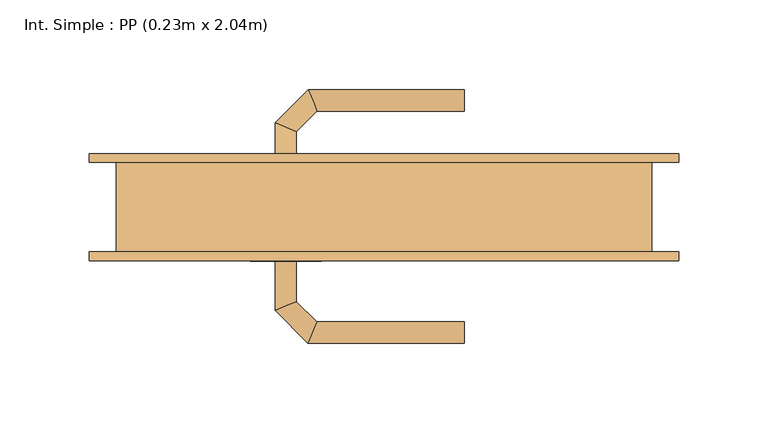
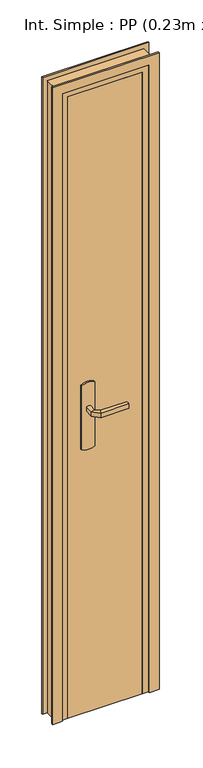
"""IFC4 building model written with IfcOpenShell, lengths in millimetres: door geometry, Int. Simple : PP (0.23m x 2.04m)."""

from ifc_helpers import new_model, si_unit, point, frame, frame_2d, origin, origin_with_axes, place, context, project, spatial, polyline, circle_curve, ellipse_curve, trimmed, segment, composite_curve, outline, extrude, faceted_brep, source, transform, mapped, element, save
from ifc_brep_helpers import plane_surface, cylinder_surface, advanced_brep


def int_simple_pp_0_23m_x_2_04m_21f02698(model_context):
    return source(origin(), model_context, "Body", "SolidModel", [
        extrude(outline(composite_curve([segment(trimmed(circle_curve(frame_2d((904.6410162, -90.0)), 40.0), [point((870.0, -110.0))], [point((870.0, -70.0))], False, "CARTESIAN"), True, "CONTINUOUS"), segment(polyline([(870.0, -70.0), (1080.0, -70.0)]), True, "CONTINUOUS"), segment(trimmed(circle_curve(frame_2d((1045.3589838, -90.0)), 40.0), [point((1080.0, -70.0))], [point((1080.0, -110.0))], False, "CARTESIAN"), True, "CONTINUOUS"), segment(polyline([(1080.0, -110.0), (870.0, -110.0)]), True, "CONTINUOUS")], self_intersect=False)), frame((0.0, -30.0, 0.0), z_axis=(0.0, 1.0, 0.0), x_axis=(0.0, 0.0, 1.0)), (0.0, 0.0, 1.0), 5.0),
        extrude(outline(composite_curve([segment(trimmed(circle_curve(frame_2d((1045.3589838, -90.0)), 40.0), [point((1080.0, -70.0))], [point((1080.0, -110.0))], False, "CARTESIAN"), True, "CONTINUOUS"), segment(polyline([(1080.0, -110.0), (870.0, -110.0)]), True, "CONTINUOUS"), segment(trimmed(circle_curve(frame_2d((904.6410162, -90.0)), 40.0), [point((870.0, -110.0))], [point((870.0, -70.0))], False, "CARTESIAN"), True, "CONTINUOUS"), segment(polyline([(870.0, -70.0), (1080.0, -70.0)]), True, "CONTINUOUS")], self_intersect=False)), frame((0.0, 15.0, 0.0), z_axis=(0.0, 1.0, 0.0), x_axis=(0.0, 0.0, 1.0)), (0.0, 0.0, 1.0), 5.0),
        advanced_brep(
        [(-96.0, -30.0, 1007.0), (-84.0, -30.0, 1007.0), (-84.0, -30.0, 993.0), (-96.0, -30.0, 993.0), (-96.0, -57.6509507, 1007.0), (-84.0, -52.680388, 1007.0), (-84.0, -52.680388, 993.0), (-96.0, -57.6509507, 993.0), (-77.62279, -76.0281607, 1007.0), (-72.6522273, -64.0281607, 1007.0), (-72.6522273, -64.0281607, 993.0), (-77.62279, -76.0281607, 993.0), (10.0186406, -76.0281607, 1007.0), (10.0186406, -76.0281607, 993.0), (10.0186406, -64.0281607, 993.0), (10.0186406, -64.0281607, 1007.0)],
        [
            (0, 1, circle_curve(frame((-90.0, -30.0, 986.9542278), z_axis=(0.0, 1.0, 0.0), x_axis=(1.0, 0.0, 0.0)), 20.9244589)),
            (1, 2),
            (2, 3, circle_curve(frame((-90.0, -30.0, 1013.0457722), z_axis=(0.0, 1.0, 0.0), x_axis=(1.0, 0.0, 0.0)), 20.9244589)),
            (3, 0),
            (0, 4),
            (4, 5, ellipse_curve(frame((-90.0, -55.1656693, 986.9542278), z_axis=(-0.3826834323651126, 0.9238795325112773, 0.0), x_axis=(0.9238795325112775, 0.38268343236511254, 0.0)), 22.6484711, 20.9244589)),
            (5, 1),
            (5, 6),
            (6, 2),
            (6, 7, ellipse_curve(frame((-90.0, -55.1656693, 1013.0457722), z_axis=(-0.3826834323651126, 0.9238795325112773, 0.0), x_axis=(0.9238795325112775, 0.38268343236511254, 0.0)), 22.6484711, 20.9244589)),
            (7, 3),
            (7, 4),
            (4, 8),
            (8, 9, ellipse_curve(frame((-75.1375086, -70.0281607, 986.9542278), z_axis=(-0.9238795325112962, 0.38268343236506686, 0.0), x_axis=(0.3826834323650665, 0.9238795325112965, 0.0)), 22.6484711, 20.9244589)),
            (9, 5),
            (9, 10),
            (10, 6),
            (10, 11, ellipse_curve(frame((-75.1375086, -70.0281607, 1013.0457722), z_axis=(-0.9238795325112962, 0.38268343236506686, 0.0), x_axis=(0.3826834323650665, 0.9238795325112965, 0.0)), 22.6484711, 20.9244589)),
            (11, 7),
            (11, 8),
            (12, 13),
            (13, 14, circle_curve(frame((10.0186406, -70.0281607, 1013.0457722), z_axis=(1.0, 0.0, 0.0), x_axis=(0.0, 1.0, 0.0)), 20.9244589)),
            (14, 15),
            (15, 12, circle_curve(frame((10.0186406, -70.0281607, 986.9542278), z_axis=(1.0, 0.0, 0.0), x_axis=(0.0, 1.0, 0.0)), 20.9244589)),
            (8, 12),
            (15, 9),
            (14, 10),
            (13, 11),
        ],
        [
            plane_surface(frame((-99.2195445, -30.0, 1000.0), z_axis=(0.0, 1.0, 0.0), x_axis=(0.0, 0.0, -1.0))),
            cylinder_surface(frame((-90.0, -30.0, 986.9542278), z_axis=(0.0, 1.0, 0.0), x_axis=(1.0, 0.0, 0.0)), 20.9244589),
            plane_surface(frame((-84.0, -30.0, 1007.0), z_axis=(1.0, 0.0, 0.0), x_axis=(0.0, -1.0, 0.0))),
            cylinder_surface(frame((-90.0, -30.0, 1013.0457722), z_axis=(0.0, 1.0, 0.0), x_axis=(1.0, 0.0, 0.0)), 20.9244589),
            plane_surface(frame((-96.0, -30.0, 993.0), z_axis=(-1.0, 0.0, 0.0), x_axis=(0.0, -1.0, 0.0))),
            cylinder_surface(frame((-90.0, -55.1656693, 986.9542278), z_axis=(-0.7071067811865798, 0.7071067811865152, 0.0), x_axis=(0.7071067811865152, 0.7071067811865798, 0.0)), 20.9244589),
            plane_surface(frame((-84.0, -52.680388, 1007.0), z_axis=(0.7071067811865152, 0.7071067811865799, 0.0), x_axis=(0.7071067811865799, -0.7071067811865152, 0.0))),
            cylinder_surface(frame((-90.0, -55.1656693, 1013.0457722), z_axis=(-0.7071067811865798, 0.7071067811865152, 0.0), x_axis=(0.7071067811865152, 0.7071067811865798, 0.0)), 20.9244589),
            plane_surface(frame((-96.0, -57.6509507, 993.0), z_axis=(-0.7071067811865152, -0.7071067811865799, 0.0), x_axis=(0.7071067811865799, -0.7071067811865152, 0.0))),
            plane_surface(frame((10.0186406, -70.0281607, 990.7804555), z_axis=(1.0, 0.0, 0.0), x_axis=(0.0, 1.0, 0.0))),
            cylinder_surface(frame((-75.1375086, -70.0281607, 986.9542278), z_axis=(-1.0, 0.0, 0.0), x_axis=(0.0, 1.0, 0.0)), 20.9244589),
            plane_surface(frame((-72.6522273, -64.0281607, 1007.0), z_axis=(0.0, 1.0, 0.0), x_axis=(1.0, 0.0, 0.0))),
            cylinder_surface(frame((-75.1375086, -70.0281607, 1013.0457722), z_axis=(-1.0, 0.0, 0.0), x_axis=(0.0, 1.0, 0.0)), 20.9244589),
            plane_surface(frame((-77.62279, -76.0281607, 993.0), z_axis=(0.0, -1.0, 0.0), x_axis=(1.0, 0.0, 0.0))),
        ],
        [
            (0, [[1, 2, 3, 4]]),
            (1, [[-1, 5, 6, 7]]),
            (2, [[-2, -7, 8, 9]]),
            (3, [[-3, -9, 10, 11]]),
            (4, [[-4, -11, 12, -5]]),
            (5, [[-6, 13, 14, 15]]),
            (6, [[-8, -15, 16, 17]]),
            (7, [[-10, -17, 18, 19]]),
            (8, [[-12, -19, 20, -13]]),
            (9, [[21, 22, 23, 24]]),
            (10, [[-14, 25, -24, 26]]),
            (11, [[-16, -26, -23, 27]]),
            (12, [[-18, -27, -22, 28]]),
            (13, [[-20, -28, -21, -25]]),
        ],
    ),
        advanced_brep(
        [(-84.0, 20.0, 993.0), (-84.0, 20.0, 1007.0), (-96.0, 20.0, 1007.0), (-96.0, 20.0, 993.0), (-84.0, 42.4852045, 993.0), (-84.0, 42.4852045, 1007.0), (-96.0, 47.4557673, 1007.0), (-96.0, 47.4557673, 993.0), (-72.5147186, 53.9704859, 993.0), (-72.5147186, 53.9704859, 1007.0), (-77.4852814, 65.9704859, 1007.0), (-77.4852814, 65.9704859, 993.0), (10.0457837, 53.9704859, 993.0), (10.0457837, 65.9704859, 993.0), (10.0457837, 65.9704859, 1007.0), (10.0457837, 53.9704859, 1007.0)],
        [
            (0, 1),
            (1, 2, circle_curve(frame((-90.0, 20.0, 986.9542278), z_axis=(0.0, -1.0, 0.0), x_axis=(-1.0, 0.0, 0.0)), 20.9244589)),
            (2, 3),
            (3, 0, circle_curve(frame((-90.0, 20.0, 1013.0457722), z_axis=(0.0, -1.0, 0.0), x_axis=(-1.0, 0.0, 0.0)), 20.9244589)),
            (0, 4),
            (4, 5),
            (5, 1),
            (5, 6, ellipse_curve(frame((-90.0, 44.9704859, 986.9542278), z_axis=(-0.3826834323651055, -0.9238795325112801, 0.0), x_axis=(0.9238795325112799, -0.3826834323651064, 0.0)), 22.6484711, 20.9244589)),
            (6, 2),
            (6, 7),
            (7, 3),
            (7, 4, ellipse_curve(frame((-90.0, 44.9704859, 1013.0457722), z_axis=(-0.3826834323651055, -0.9238795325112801, 0.0), x_axis=(0.9238795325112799, -0.3826834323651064, 0.0)), 22.6484711, 20.9244589)),
            (4, 8),
            (8, 9),
            (9, 5),
            (9, 10, ellipse_curve(frame((-75.0, 59.9704859, 986.9542278), z_axis=(-0.9238795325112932, -0.382683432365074, 0.0), x_axis=(0.3826834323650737, -0.9238795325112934, 0.0)), 22.6484711, 20.9244589)),
            (10, 6),
            (10, 11),
            (11, 7),
            (11, 8, ellipse_curve(frame((-75.0, 59.9704859, 1013.0457722), z_axis=(-0.9238795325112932, -0.382683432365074, 0.0), x_axis=(0.3826834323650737, -0.9238795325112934, 0.0)), 22.6484711, 20.9244589)),
            (12, 13, circle_curve(frame((10.0457837, 59.9704859, 1013.0457722), z_axis=(1.0, 0.0, 0.0), x_axis=(0.0, 1.0, 0.0)), 20.9244589)),
            (13, 14),
            (14, 15, circle_curve(frame((10.0457837, 59.9704859, 986.9542278), z_axis=(1.0, 0.0, 0.0), x_axis=(0.0, 1.0, 0.0)), 20.9244589)),
            (15, 12),
            (8, 12),
            (15, 9),
            (14, 10),
            (13, 11),
        ],
        [
            plane_surface(frame((-99.2195445, 20.0, 1000.0), z_axis=(0.0, -1.0, 0.0), x_axis=(0.0, 0.0, 1.0))),
            plane_surface(frame((-84.0, 20.0, 993.0), z_axis=(1.0, 0.0, 0.0), x_axis=(0.0, 1.0, 0.0))),
            cylinder_surface(frame((-90.0, 20.0, 986.9542278), z_axis=(0.0, -1.0, 0.0), x_axis=(-1.0, 0.0, 0.0)), 20.9244589),
            plane_surface(frame((-96.0, 20.0, 1007.0), z_axis=(-1.0, 0.0, 0.0), x_axis=(0.0, 1.0, 0.0))),
            cylinder_surface(frame((-90.0, 20.0, 1013.0457722), z_axis=(0.0, -1.0, 0.0), x_axis=(-1.0, 0.0, 0.0)), 20.9244589),
            plane_surface(frame((-84.0, 42.4852045, 993.0), z_axis=(0.7071067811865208, -0.7071067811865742, 0.0), x_axis=(0.7071067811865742, 0.7071067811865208, 0.0))),
            cylinder_surface(frame((-90.0, 44.9704859, 986.9542278), z_axis=(-0.7071067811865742, -0.7071067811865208, 0.0), x_axis=(-0.7071067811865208, 0.7071067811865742, 0.0)), 20.9244589),
            plane_surface(frame((-96.0, 47.4557673, 1007.0), z_axis=(-0.7071067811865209, 0.7071067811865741, 0.0), x_axis=(0.7071067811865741, 0.7071067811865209, 0.0))),
            cylinder_surface(frame((-90.0, 44.9704859, 1013.0457722), z_axis=(-0.7071067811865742, -0.7071067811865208, 0.0), x_axis=(-0.7071067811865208, 0.7071067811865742, 0.0)), 20.9244589),
            plane_surface(frame((10.0457837, 59.9704859, 990.7804555), z_axis=(1.0, 0.0, 0.0), x_axis=(0.0, 1.0, 0.0))),
            plane_surface(frame((-72.5147186, 53.9704859, 993.0), z_axis=(0.0, -1.0, 0.0), x_axis=(1.0, 0.0, 0.0))),
            cylinder_surface(frame((-75.0, 59.9704859, 986.9542278), z_axis=(-1.0, 0.0, 0.0), x_axis=(0.0, 1.0, 0.0)), 20.9244589),
            plane_surface(frame((-77.4852814, 65.9704859, 1007.0), z_axis=(0.0, 1.0, 0.0), x_axis=(1.0, 0.0, 0.0))),
            cylinder_surface(frame((-75.0, 59.9704859, 1013.0457722), z_axis=(-1.0, 0.0, 0.0), x_axis=(0.0, 1.0, 0.0)), 20.9244589),
        ],
        [
            (0, [[1, 2, 3, 4]]),
            (1, [[-1, 5, 6, 7]]),
            (2, [[-2, -7, 8, 9]]),
            (3, [[-3, -9, 10, 11]]),
            (4, [[-4, -11, 12, -5]]),
            (5, [[-6, 13, 14, 15]]),
            (6, [[-8, -15, 16, 17]]),
            (7, [[-10, -17, 18, 19]]),
            (8, [[-12, -19, 20, -13]]),
            (9, [[21, 22, 23, 24]]),
            (10, [[-14, 25, -24, 26]]),
            (11, [[-16, -26, -23, 27]]),
            (12, [[-18, -27, -22, 28]]),
            (13, [[-20, -28, -21, -25]]),
        ],
    ),
        extrude(outline(polyline([(-150.0, 15.0), (80.0, 15.0), (80.0, -25.0), (-150.0, -25.0), (-150.0, 15.0)])), origin_with_axes(), (0.0, 0.0, 1.0), 2040.0),
        faceted_brep([(-185.0, -25.0, 0.0), (-185.0, 25.0, 0.0), (-135.0, 25.0, 0.0), (-135.0, 15.0, 0.0), (-150.0, 15.0, 0.0), (-150.0, -25.0, 0.0), (-185.0, -25.0, 2075.0), (-185.0, 25.0, 2075.0), (115.0, 25.0, 2075.0), (115.0, 25.0, 0.0), (65.0, 25.0, 0.0), (65.0, 25.0, 2025.0), (-135.0, 25.0, 2025.0), (-135.0, 15.0, 2025.0), (65.0, 15.0, 2025.0), (65.0, 15.0, 0.0), (80.0, 15.0, 0.0), (80.0, 15.0, 2040.0), (-150.0, 15.0, 2040.0), (-150.0, -25.0, 2040.0), (80.0, -25.0, 2040.0), (80.0, -25.0, 0.0), (115.0, -25.0, 0.0), (115.0, -25.0, 2075.0)], [[[0, 1, 2, 3, 4, 5]], [[1, 0, 6, 7]], [[2, 1, 7, 8, 9, 10, 11, 12]], [[3, 2, 12, 13]], [[4, 3, 13, 14, 15, 16, 17, 18]], [[5, 4, 18, 19]], [[0, 5, 19, 20, 21, 22, 23, 6]], [[8, 23, 22, 9]], [[22, 21, 16, 15, 10, 9]], [[14, 11, 10, 15]], [[20, 17, 16, 21]], [[7, 6, 23, 8]], [[13, 12, 11, 14]], [[19, 18, 17, 20]]]),
        extrude(outline(polyline([(0.0, -200.0), (0.0, -170.0), (2060.0, -170.0), (2060.0, 100.0), (0.0, 100.0), (0.0, 130.0), (2090.0, 130.0), (2090.0, -200.0), (0.0, -200.0)])), frame((0.0, -30.0, 0.0), z_axis=(0.0, 1.0, 0.0), x_axis=(0.0, 0.0, 1.0)), (0.0, 0.0, 1.0), 5.0),
        extrude(outline(polyline([(0.0, -200.0), (0.0, -170.0), (2060.0, -170.0), (2060.0, 100.0), (0.0, 100.0), (0.0, 130.0), (2090.0, 130.0), (2090.0, -200.0), (0.0, -200.0)])), frame((0.0, 25.0, 0.0), z_axis=(0.0, 1.0, 0.0), x_axis=(0.0, 0.0, 1.0)), (0.0, 0.0, 1.0), 5.0),
    ])


if __name__ == "__main__":
    model = new_model("IFC4")
    model_context = context("Model", 3, world=origin())
    ifc_project = project(units=[si_unit("LENGTHUNIT", "METRE", prefix="MILLI")], contexts=[model_context])
    site = spatial("IfcSite", under=ifc_project)
    building = spatial("IfcBuilding", under=site)
    placement = place(None, origin())
    int_simple_pp_0_23m_x_2_04m_shape = int_simple_pp_0_23m_x_2_04m_21f02698(model_context)
    element("IfcDoor", 1, ObjectType="Int. Simple : PP (0.23m x 2.04m)", at=placement, inside=building, context=model_context, shape_type="MappedRepresentation", body=[
        mapped(int_simple_pp_0_23m_x_2_04m_shape, transform((0.0, 0.0, 0.0), x_axis=(1.0, 0.0, 0.0), y_axis=(0.0, 1.0, 0.0), z_axis=(0.0, 0.0, 1.0))),
    ])
    save(model, "model.ifc")
